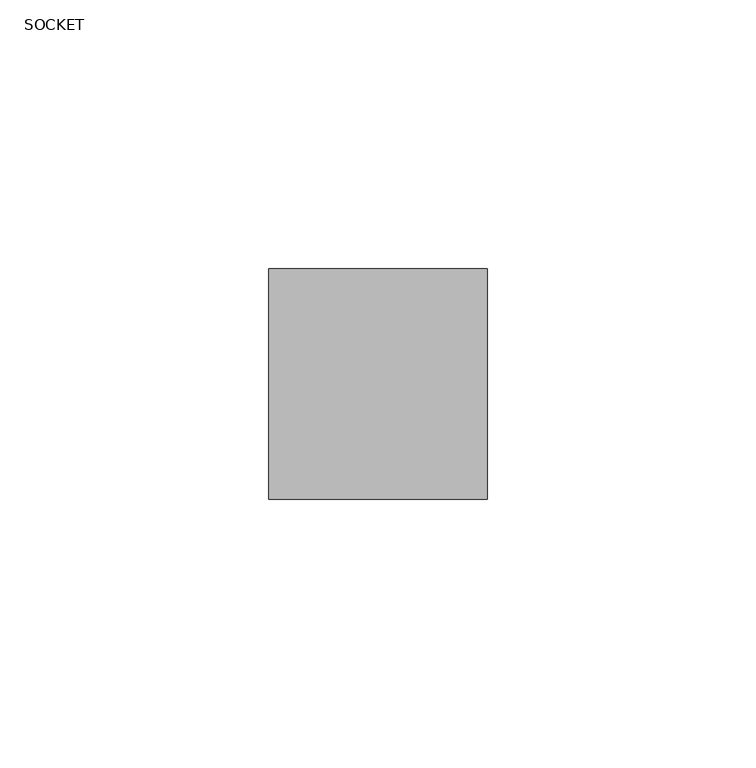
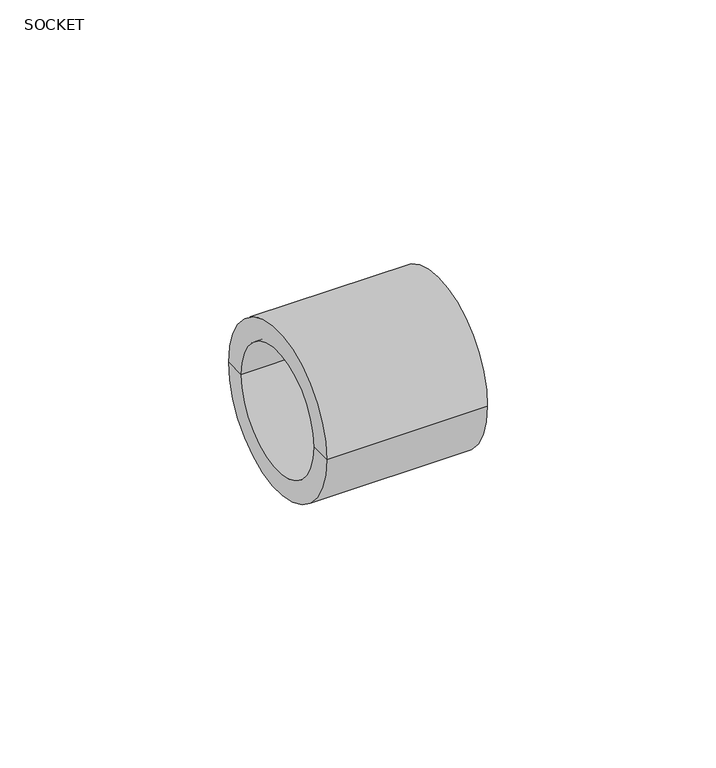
"""IFC4 building model written with IfcOpenShell, lengths in millimetres: pipe fitting geometry, Aquatherm - Coupling Socket : SOCKET."""

from ifc_helpers import new_model, si_unit, frame, origin, place, context, project, spatial, polyline, circle_curve, source, transform, mapped, element, save
from ifc_brep_helpers import plane_surface, cylinder_surface, revolved_surface, advanced_brep


def socket_a93e7f4f(model_context):
    return source(origin(), model_context, "Body", "AdvancedBrep", [
        advanced_brep(
        [(-20.32, -16.002, 0.0), (-20.32, 16.002, 0.0), (-20.32, 21.463, 0.0), (-20.32, -21.463, 0.0), (-2.286, -16.002, 0.0), (-2.286, 16.002, 0.0), (-2.286, -11.43, 0.0), (-2.286, 11.43, 0.0), (2.286, -11.43, 0.0), (2.286, 11.43, 0.0), (2.286, -16.002, 0.0), (2.286, 16.002, 0.0), (20.32, -16.002, 0.0), (20.32, 16.002, 0.0), (20.32, -21.463, 0.0), (20.32, 21.463, 0.0)],
        [
            (0, 1, circle_curve(frame((-20.32, 0.0, 0.0), z_axis=(1.0, 0.0, 0.0), x_axis=(0.0, 1.0, 0.0)), 16.002)),
            (1, 2),
            (2, 3, circle_curve(frame((-20.32, 0.0, 0.0), z_axis=(-1.0, 0.0, 0.0), x_axis=(0.0, 1.0, 0.0)), 21.463)),
            (3, 0),
            (1, 0, circle_curve(frame((-20.32, 0.0, 0.0), z_axis=(1.0, 0.0, 0.0), x_axis=(0.0, 1.0, 0.0)), 16.002)),
            (3, 2, circle_curve(frame((-20.32, 0.0, 0.0), z_axis=(-1.0, 0.0, 0.0), x_axis=(0.0, 1.0, 0.0)), 21.463)),
            (4, 5, circle_curve(frame((-2.286, 0.0, 0.0), z_axis=(1.0, 0.0, 0.0), x_axis=(0.0, 1.0, 0.0)), 16.002)),
            (5, 1),
            (0, 4),
            (5, 4, circle_curve(frame((-2.286, 0.0, 0.0), z_axis=(1.0, 0.0, 0.0), x_axis=(0.0, 1.0, 0.0)), 16.002)),
            (6, 7, circle_curve(frame((-2.286, 0.0, 0.0), z_axis=(1.0, 0.0, 0.0), x_axis=(0.0, 1.0, 0.0)), 11.43)),
            (7, 5),
            (4, 6),
            (7, 6, circle_curve(frame((-2.286, 0.0, 0.0), z_axis=(1.0, 0.0, 0.0), x_axis=(0.0, 1.0, 0.0)), 11.43)),
            (8, 9, circle_curve(frame((2.286, 0.0, 0.0), z_axis=(1.0, 0.0, 0.0), x_axis=(0.0, 1.0, 0.0)), 11.43)),
            (9, 7),
            (6, 8),
            (9, 8, circle_curve(frame((2.286, 0.0, 0.0), z_axis=(1.0, 0.0, 0.0), x_axis=(0.0, 1.0, 0.0)), 11.43)),
            (10, 11, circle_curve(frame((2.286, 0.0, 0.0), z_axis=(1.0, 0.0, 0.0), x_axis=(0.0, 1.0, 0.0)), 16.002)),
            (11, 9),
            (8, 10),
            (11, 10, circle_curve(frame((2.286, 0.0, 0.0), z_axis=(1.0, 0.0, 0.0), x_axis=(0.0, 1.0, 0.0)), 16.002)),
            (12, 13, circle_curve(frame((20.32, 0.0, 0.0), z_axis=(1.0, 0.0, 0.0), x_axis=(0.0, 1.0, 0.0)), 16.002)),
            (13, 11),
            (10, 12),
            (13, 12, circle_curve(frame((20.32, 0.0, 0.0), z_axis=(1.0, 0.0, 0.0), x_axis=(0.0, 1.0, 0.0)), 16.002)),
            (14, 15, circle_curve(frame((20.32, 0.0, 0.0), z_axis=(1.0, 0.0, 0.0), x_axis=(0.0, 1.0, 0.0)), 21.463)),
            (15, 13),
            (12, 14),
            (15, 14, circle_curve(frame((20.32, 0.0, 0.0), z_axis=(1.0, 0.0, 0.0), x_axis=(0.0, 1.0, 0.0)), 21.463)),
            (2, 15),
            (14, 3),
        ],
        [
            plane_surface(frame((-20.32, 0.0, 0.0), z_axis=(-1.0, 0.0, 0.0), x_axis=(0.0, 1.0, 0.0))),
            revolved_surface(polyline([(-20.32, 16.002, 0.0), (-2.2860000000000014, 16.002, 0.0)]), (-36.6184022, 0.0, 0.0), (-1.0, 0.0, 0.0)),
            plane_surface(frame((-2.286, 0.0, 0.0), z_axis=(-1.0, 0.0, 0.0), x_axis=(0.0, 1.0, 0.0))),
            revolved_surface(polyline([(-2.2860000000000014, 11.43, 0.0), (2.2860000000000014, 11.43, 0.0)]), (-36.6184022, 0.0, 0.0), (-1.0, 0.0, 0.0)),
            plane_surface(frame((2.286, 0.0, 0.0), z_axis=(1.0, 0.0, 0.0), x_axis=(0.0, 1.0, 0.0))),
            revolved_surface(polyline([(2.2860000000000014, 16.002, 0.0), (20.32, 16.002, 0.0)]), (-36.6184022, 0.0, 0.0), (-1.0, 0.0, 0.0)),
            plane_surface(frame((20.32, 0.0, 0.0), z_axis=(1.0, 0.0, 0.0), x_axis=(0.0, 1.0, 0.0))),
            cylinder_surface(frame((-36.6184022, 0.0, 0.0), z_axis=(-1.0, 0.0, 0.0), x_axis=(0.0, 1.0, 0.0)), 21.463),
        ],
        [
            (0, [[1, 2, 3, 4]]),
            (0, [[5, -4, 6, -2]]),
            (1, [[7, 8, -1, 9]]),
            (1, [[10, -9, -5, -8]]),
            (2, [[11, 12, -7, 13]]),
            (2, [[14, -13, -10, -12]]),
            (3, [[15, 16, -11, 17]]),
            (3, [[18, -17, -14, -16]]),
            (4, [[19, 20, -15, 21]]),
            (4, [[22, -21, -18, -20]]),
            (5, [[23, 24, -19, 25]]),
            (5, [[26, -25, -22, -24]]),
            (6, [[27, 28, -23, 29]]),
            (6, [[30, -29, -26, -28]]),
            (7, [[-3, 31, -27, 32]]),
            (7, [[-6, -32, -30, -31]]),
        ],
    ),
    ])


if __name__ == "__main__":
    model = new_model("IFC4")
    model_context = context("Model", 3, world=origin())
    ifc_project = project(units=[si_unit("LENGTHUNIT", "METRE", prefix="MILLI")], contexts=[model_context])
    site = spatial("IfcSite", under=ifc_project)
    building = spatial("IfcBuilding", under=site)
    placement = place(None, origin())
    ifc_socket_shape = socket_a93e7f4f(model_context)
    element("IfcPipeFitting", 1, ObjectType="Aquatherm - Coupling Socket : SOCKET", at=placement, inside=building, context=model_context, shape_type="MappedRepresentation", body=[
        mapped(ifc_socket_shape, transform((0.0, 0.0, 0.0), x_axis=(1.0, 0.0, 0.0), y_axis=(0.0, 1.0, 0.0), z_axis=(0.0, 0.0, 1.0))),
    ])
    save(model, "model.ifc")
